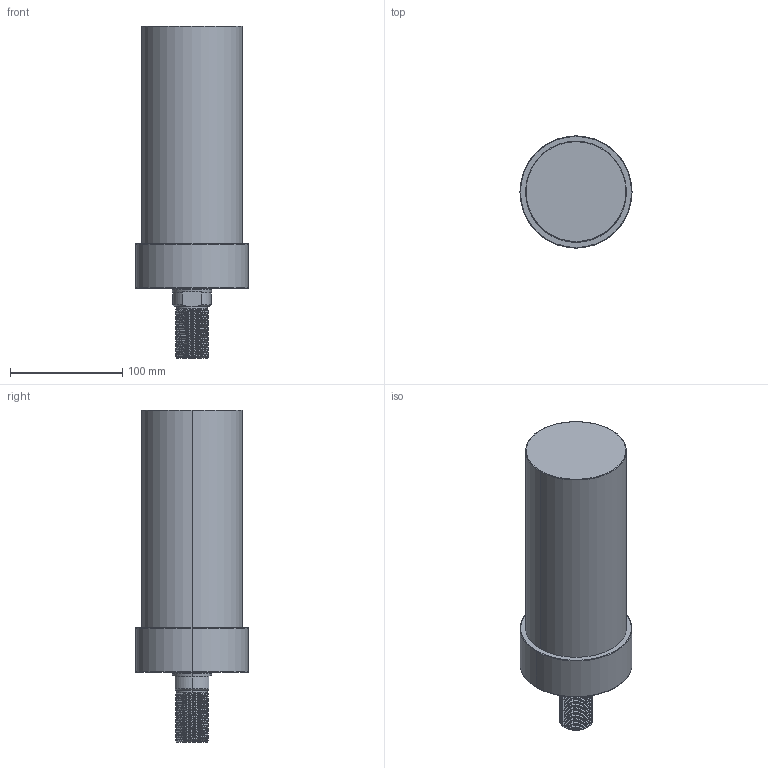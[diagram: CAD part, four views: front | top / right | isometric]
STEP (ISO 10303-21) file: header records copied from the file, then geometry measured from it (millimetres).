
FILE_DESCRIPTION (( 'STEP AP203' ), '1' );
FILE_NAME ('CLLU-090GT-150.STEP', '2020-01-15T01:35:46', ( '' ), ( '' ), 'SwSTEP 2.0', 'SolidWorks 2015', '' );
FILE_SCHEMA (( 'CONFIG_CONTROL_DESIGN' ));
Length unit declared in the file: millimetre
Products named in the file (1): CLLU-090GT-150
Bounding box: 100 x 100 x 296 mm (x, y, z)
Volume: 1586126.4 mm3; surface area: 95106.7 mm2
Topology: 1 solids, 1 shells, 125 faces, 326 edges, 204 vertices
Faces by surface type: cylinder 79, cone 26, plane 12, torus 6, bspline 2
Entity records: 7191 total; most frequent: CARTESIAN_POINT 4402, ORIENTED_EDGE 636, DIRECTION 515, EDGE_CURVE 318, VERTEX_POINT 204, AXIS2_PLACEMENT_3D 202, EDGE_LOOP 134, FACE_OUTER_BOUND 125
